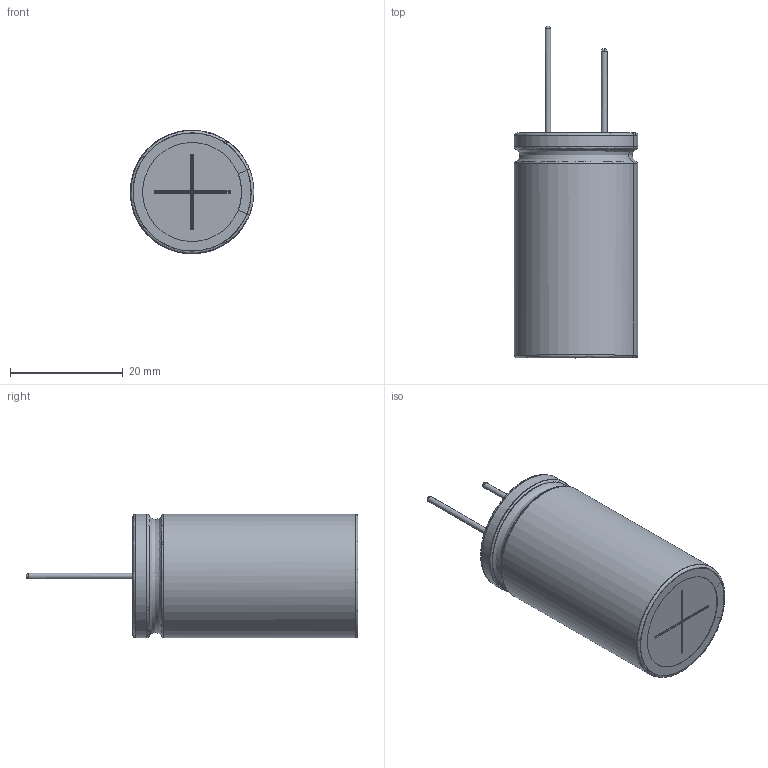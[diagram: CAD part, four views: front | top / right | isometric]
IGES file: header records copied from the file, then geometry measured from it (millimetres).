
Start section: JAMA-IS VERSION  1.0
Bounding box: 21.97 x 59 x 21.98 mm (x, y, z)
Surface area: 9702.8 mm2 (no closed solid volume)
Topology: 0 solids, 0 shells, 100 faces, 1352 edges, 1332 vertices
Faces by surface type: bspline 100
